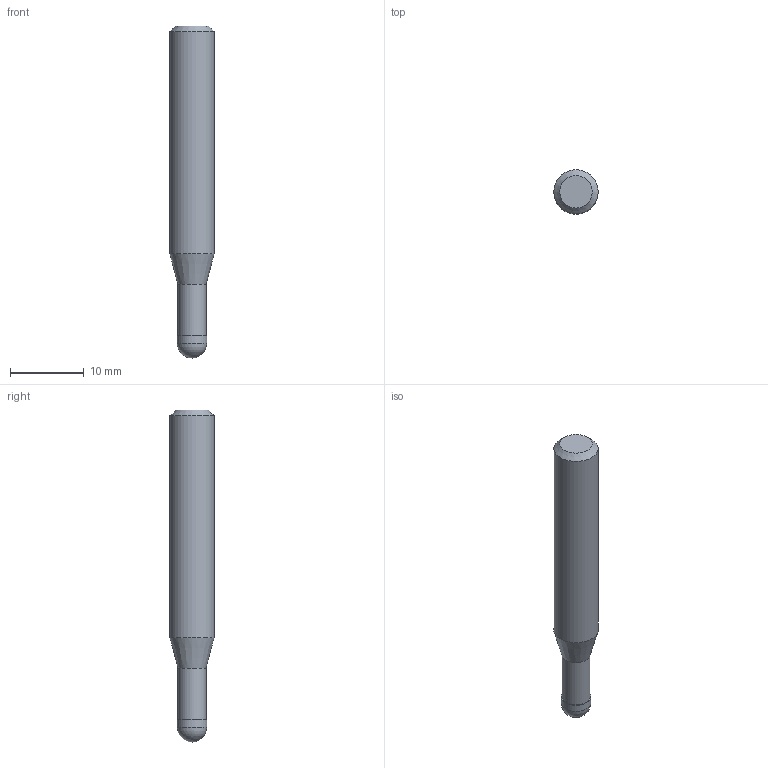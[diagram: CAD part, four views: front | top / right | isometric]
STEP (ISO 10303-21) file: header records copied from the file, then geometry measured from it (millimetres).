
FILE_DESCRIPTION((''),'2;1');
FILE_NAME('C:\Users\nsx150\AppData\Local\Temp\Mastercam 2021\QT8KEW0Y7J\TEMP.step','2021-04-23T11:21:55',(''),(''),'STEP Write','Mastercam 2021 ... CNC Software, Inc.','');
FILE_SCHEMA(('AUTOMOTIVE_DESIGN'));
Length unit declared in the file: millimetre
Products named in the file (1): None
Bounding box: 6 x 6 x 45 mm (x, y, z)
Volume: 1055.5 mm3; surface area: 811.6 mm2
Topology: 2 solids, 2 shells, 9 faces, 14 edges, 8 vertices
Faces by surface type: plane 3, cylinder 3, cone 2, sphere 1
Full cylindrical faces by diameter (mm): 3.8 x1, 4 x1, 6 x1
Entity records: 211 total; most frequent: DIRECTION 36, CARTESIAN_POINT 25, AXIS2_PLACEMENT_3D 18, ORIENTED_EDGE 14, EDGE_LOOP 14, STYLED_ITEM 12, ADVANCED_FACE 9, FACE_BOUND 8
